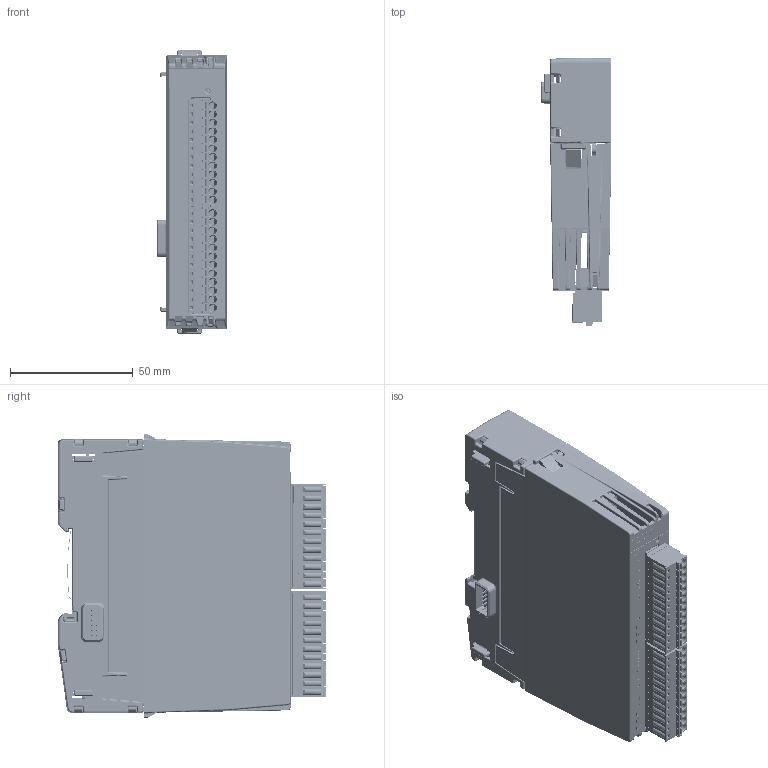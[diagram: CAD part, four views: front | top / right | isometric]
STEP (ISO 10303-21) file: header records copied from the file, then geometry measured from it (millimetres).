
FILE_DESCRIPTION(/* description */ (''),/* implementation_level */ '2;1');
FILE_NAME(/* name */ 'C:\Users\shoma\OneDrive - Brodersen\Project\3D Files\New Design\DI20A\DI20A_Simplified+BackBB21C.stp',/* time_stamp */ '2024-10-15T20:24:41+02:00',/* author */ ('shoma'),/* organization */ (''),/* preprocessor_version */ 'ST-DEVELOPER v19',/* originating_system */ 'Autodesk Inventor 2023',/* authorisation */ '');
FILE_SCHEMA (('AUTOMOTIVE_DESIGN { 1 0 10303 214 3 1 1 }'));
Products named in the file (1): DI20A_Simplified+BackBB21C
Bounding box: 28.9 x 109.39 x 115.5 mm (x, y, z)
Volume: 155201 mm3; surface area: 94769.5 mm2
Topology: 8 solids, 58 shells, 9458 faces, 25064 edges, 15782 vertices
Faces by surface type: plane 5734, cylinder 2404, bspline 884, cone 233, sphere 162, torus 41
Full cylindrical faces by diameter (mm): 0.296 x2, 0.3 x152, 0.457 x2, 0.7 x36, 0.8 x6, 0.85 x24, 0.9 x8, 1.17 x24, 1.2 x24, 1.25 x24, 1.3 x24, 1.4 x4, 1.6 x26, 2.35 x2, 2.5 x1, 3 x1, 3.1 x24, 3.25 x2
Entity records: 326717 total; most frequent: CARTESIAN_POINT 83976, ORIENTED_EDGE 49822, DIRECTION 46143, EDGE_CURVE 24911, LINE 17653, VECTOR 17653, VERTEX_POINT 15782, AXIS2_PLACEMENT_3D 14245
